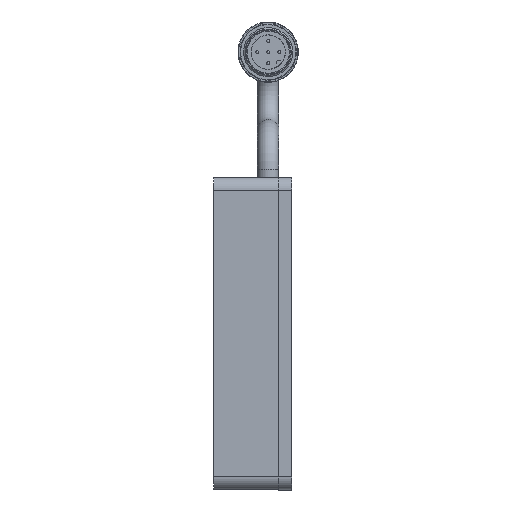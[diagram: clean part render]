
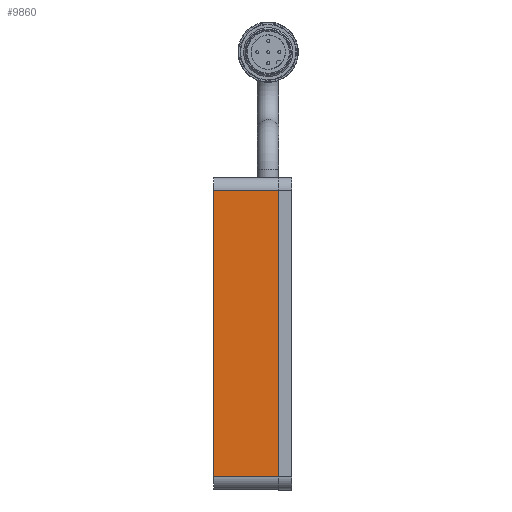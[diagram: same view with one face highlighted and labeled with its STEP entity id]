
A CAD part, left-side view. The second image highlights one B-rep face of the part: STEP entity #9860.
In plain terms, the highlighted planar face has unit normal (-1, 0, 0).
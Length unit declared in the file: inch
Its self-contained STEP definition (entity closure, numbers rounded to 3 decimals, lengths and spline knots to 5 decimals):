
#268 = VECTOR ( 'NONE', #6318, 39.37008 ) ;
#270 = DIRECTION ( 'NONE',  ( 0., 0., -1. ) ) ;
#421 = CARTESIAN_POINT ( 'NONE',  ( -5.5, -0.3125, -1.375 ) ) ;
#662 = LINE ( 'NONE', #6903, #3099 ) ;
#950 = CARTESIAN_POINT ( 'NONE',  ( -5.5, 0.3125, 1.375 ) ) ;
#1076 = VERTEX_POINT ( 'NONE', #421 ) ;
#1120 = ORIENTED_EDGE ( 'NONE', *, *, #8368, .T. ) ;
#1425 = ORIENTED_EDGE ( 'NONE', *, *, #6398, .F. ) ;
#1502 = DIRECTION ( 'NONE',  ( 0., 0., 1. ) ) ;
#1734 = VERTEX_POINT ( 'NONE', #8376 ) ;
#1783 = DIRECTION ( 'NONE',  ( 0., -1., 0. ) ) ;
#1870 = EDGE_CURVE ( 'NONE', #1734, #1076, #3938, .T. ) ;
#2256 = AXIS2_PLACEMENT_3D ( 'NONE', #3403, #4103, #270 ) ;
#2490 = ORIENTED_EDGE ( 'NONE', *, *, #9305, .T. ) ;
#2985 = EDGE_LOOP ( 'NONE', ( #1425, #8665, #2490, #1120 ) ) ;
#3099 = VECTOR ( 'NONE', #5512, 39.37008 ) ;
#3403 = CARTESIAN_POINT ( 'NONE',  ( -5.5, 0.3125, 1.5 ) ) ;
#3919 = VECTOR ( 'NONE', #1502, 39.37008 ) ;
#3938 = LINE ( 'NONE', #9375, #9550 ) ;
#4103 = DIRECTION ( 'NONE',  ( 1., 0., 0. ) ) ;
#4494 = CARTESIAN_POINT ( 'NONE',  ( -5.5, -0.3125, 1.375 ) ) ;
#5512 = DIRECTION ( 'NONE',  ( 0., 0., 1. ) ) ;
#6266 = CARTESIAN_POINT ( 'NONE',  ( -5.5, 0.3125, 1.5 ) ) ;
#6318 = DIRECTION ( 'NONE',  ( 0., 1., 0. ) ) ;
#6398 = EDGE_CURVE ( 'NONE', #1734, #8480, #6887, .T. ) ;
#6462 = PLANE ( 'NONE',  #2256 ) ;
#6887 = LINE ( 'NONE', #6266, #3919 ) ;
#6903 = CARTESIAN_POINT ( 'NONE',  ( -5.5, -0.3125, 1.5 ) ) ;
#7136 = LINE ( 'NONE', #950, #268 ) ;
#7377 = FACE_OUTER_BOUND ( 'NONE', #2985, .T. ) ;
#8368 = EDGE_CURVE ( 'NONE', #9992, #8480, #7136, .T. ) ;
#8376 = CARTESIAN_POINT ( 'NONE',  ( -5.5, 0.3125, -1.375 ) ) ;
#8480 = VERTEX_POINT ( 'NONE', #9661 ) ;
#8665 = ORIENTED_EDGE ( 'NONE', *, *, #1870, .T. ) ;
#9305 = EDGE_CURVE ( 'NONE', #1076, #9992, #662, .T. ) ;
#9375 = CARTESIAN_POINT ( 'NONE',  ( -5.5, 0.3125, -1.375 ) ) ;
#9550 = VECTOR ( 'NONE', #1783, 39.37008 ) ;
#9661 = CARTESIAN_POINT ( 'NONE',  ( -5.5, 0.3125, 1.375 ) ) ;
#9860 = ADVANCED_FACE ( 'NONE', ( #7377 ), #6462, .F. ) ;
#9992 = VERTEX_POINT ( 'NONE', #4494 ) ;
